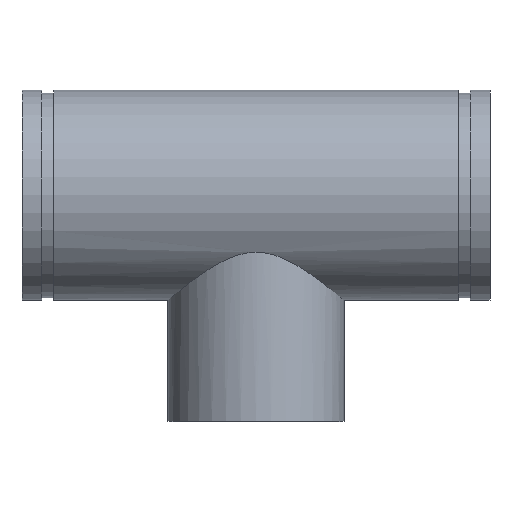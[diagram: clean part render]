
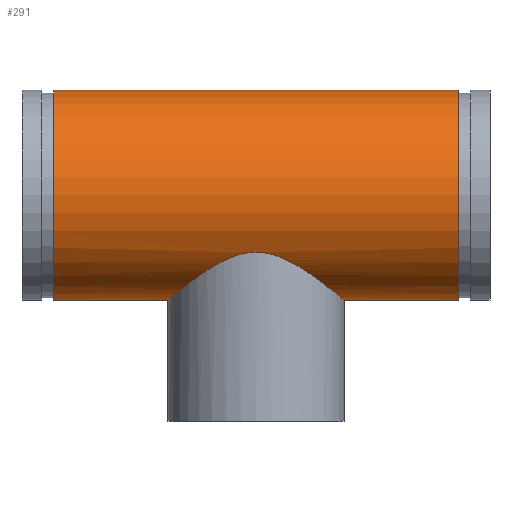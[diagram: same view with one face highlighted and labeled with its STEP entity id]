
A CAD part, top view. The second image highlights one B-rep face of the part: STEP entity #291.
In plain terms, the highlighted cylindrical face has radius 84.138 mm (diameter 168.275 mm), a full revolution.
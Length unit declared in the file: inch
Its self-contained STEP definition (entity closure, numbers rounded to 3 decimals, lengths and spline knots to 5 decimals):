
#45=B_SPLINE_CURVE_WITH_KNOTS('',3,(#511,#512,#513,#514,#515,#516,#517,
#518,#519,#520,#521,#522,#523,#524,#525,#526,#527,#528,#529,#530,#531,#532,
#533,#534,#535,#536,#537,#538,#539,#540,#541,#542,#543,#544,#545,#546,#547,
#548,#549,#550,#551,#552,#553,#554,#555,#556,#557,#558,#559,#560),
 .UNSPECIFIED.,.F.,.F.,(4,2,2,2,2,2,2,2,2,2,2,2,2,2,2,2,2,2,2,2,2,2,2,2,
4),(0.,1.47627,2.95254,4.42881,5.90508,
7.31815,8.73122,10.14429,11.55736,12.97043,
14.3835,15.79657,17.20964,18.68591,20.16218,
21.63845,23.11472,24.59099,26.06726,27.54353,
29.0198,30.43287,31.84594,33.25902,34.67209),
 .UNSPECIFIED.);
#46=B_SPLINE_CURVE_WITH_KNOTS('',3,(#561,#562,#563,#564,#565,#566,#567,
#568,#569,#570,#571,#572,#573,#574,#575,#576,#577,#578),.UNSPECIFIED.,.F.,
 .F.,(4,2,2,2,2,2,2,2,4),(34.67209,36.08516,37.49823,
38.9113,40.32437,41.80064,43.27691,44.75318,
46.22945),.UNSPECIFIED.);
#51=LINE('',#508,#59);
#59=VECTOR('',#410,3.3125);
#67=CYLINDRICAL_SURFACE('',#338,3.3125);
#77=FACE_BOUND('',#108,.T.);
#88=FACE_OUTER_BOUND('',#107,.T.);
#107=EDGE_LOOP('',(#221,#222,#223,#224));
#108=EDGE_LOOP('',(#225,#226));
#121=CIRCLE('',#321,3.3125);
#132=CIRCLE('',#337,3.3125);
#141=VERTEX_POINT('',#476);
#152=VERTEX_POINT('',#505);
#153=VERTEX_POINT('',#509);
#154=VERTEX_POINT('',#510);
#165=EDGE_CURVE('',#141,#141,#121,.T.);
#178=EDGE_CURVE('',#152,#152,#132,.T.);
#179=EDGE_CURVE('',#152,#141,#51,.T.);
#180=EDGE_CURVE('',#153,#154,#45,.T.);
#181=EDGE_CURVE('',#154,#153,#46,.T.);
#221=ORIENTED_EDGE('',*,*,#178,.T.);
#222=ORIENTED_EDGE('',*,*,#179,.T.);
#223=ORIENTED_EDGE('',*,*,#165,.T.);
#224=ORIENTED_EDGE('',*,*,#179,.F.);
#225=ORIENTED_EDGE('',*,*,#180,.F.);
#226=ORIENTED_EDGE('',*,*,#181,.F.);
#291=ADVANCED_FACE('',(#88,#77),#67,.T.);
#321=AXIS2_PLACEMENT_3D('',#477,#372,#373);
#337=AXIS2_PLACEMENT_3D('',#506,#406,#407);
#338=AXIS2_PLACEMENT_3D('',#507,#408,#409);
#372=DIRECTION('center_axis',(-1.,0.,0.));
#373=DIRECTION('ref_axis',(0.,-1.,0.));
#406=DIRECTION('center_axis',(1.,0.,0.));
#407=DIRECTION('ref_axis',(0.,-1.,0.));
#408=DIRECTION('center_axis',(-1.,0.,0.));
#409=DIRECTION('ref_axis',(0.,-1.,0.));
#410=DIRECTION('',(1.,0.,0.));
#476=CARTESIAN_POINT('',(6.38,3.3125,0.));
#477=CARTESIAN_POINT('Origin',(6.38,0.,0.));
#505=CARTESIAN_POINT('',(-6.38,3.3125,0.));
#506=CARTESIAN_POINT('Origin',(-6.38,0.,0.));
#507=CARTESIAN_POINT('Origin',(7.38,0.,0.));
#508=CARTESIAN_POINT('',(7.38,3.3125,0.));
#509=CARTESIAN_POINT('',(0.,-1.79886,-2.7815));
#510=CARTESIAN_POINT('',(-2.7815,-3.3125,0.));
#511=CARTESIAN_POINT('Ctrl Pts',(0.,-1.79886,
-2.7815));
#512=CARTESIAN_POINT('Ctrl Pts',(0.19374,-1.79886,-2.7815));
#513=CARTESIAN_POINT('Ctrl Pts',(0.383,-1.83094,-2.76129));
#514=CARTESIAN_POINT('Ctrl Pts',(0.7476,-1.94025,-2.68561));
#515=CARTESIAN_POINT('Ctrl Pts',(0.92312,-2.01685,-2.63011));
#516=CARTESIAN_POINT('Ctrl Pts',(1.25694,-2.18985,-2.48792));
#517=CARTESIAN_POINT('Ctrl Pts',(1.41532,-2.2862,-2.40109));
#518=CARTESIAN_POINT('Ctrl Pts',(1.70956,-2.47915,-2.20131));
#519=CARTESIAN_POINT('Ctrl Pts',(1.84536,-2.57576,-2.08827));
#520=CARTESIAN_POINT('Ctrl Pts',(2.08307,-2.75117,-1.85056));
#521=CARTESIAN_POINT('Ctrl Pts',(2.19469,-2.83703,-1.71803));
#522=CARTESIAN_POINT('Ctrl Pts',(2.39537,-2.99497,-1.42496));
#523=CARTESIAN_POINT('Ctrl Pts',(2.48443,-3.06701,-1.26439));
#524=CARTESIAN_POINT('Ctrl Pts',(2.63017,-3.18621,-0.92373));
#525=CARTESIAN_POINT('Ctrl Pts',(2.68698,-3.23347,-0.74323));
#526=CARTESIAN_POINT('Ctrl Pts',(2.76266,-3.29663,-0.37409));
#527=CARTESIAN_POINT('Ctrl Pts',(2.7815,-3.3125,-0.18544));
#528=CARTESIAN_POINT('Ctrl Pts',(2.7815,-3.3125,0.18544));
#529=CARTESIAN_POINT('Ctrl Pts',(2.76266,-3.29663,0.37409));
#530=CARTESIAN_POINT('Ctrl Pts',(2.68698,-3.23347,0.74323));
#531=CARTESIAN_POINT('Ctrl Pts',(2.63017,-3.18621,0.92373));
#532=CARTESIAN_POINT('Ctrl Pts',(2.48443,-3.06701,1.26439));
#533=CARTESIAN_POINT('Ctrl Pts',(2.39537,-2.99497,1.42496));
#534=CARTESIAN_POINT('Ctrl Pts',(2.19469,-2.83703,1.71803));
#535=CARTESIAN_POINT('Ctrl Pts',(2.08307,-2.75117,1.85056));
#536=CARTESIAN_POINT('Ctrl Pts',(1.84536,-2.57576,2.08827));
#537=CARTESIAN_POINT('Ctrl Pts',(1.70956,-2.47915,2.20131));
#538=CARTESIAN_POINT('Ctrl Pts',(1.41532,-2.2862,2.40109));
#539=CARTESIAN_POINT('Ctrl Pts',(1.25694,-2.18985,2.48792));
#540=CARTESIAN_POINT('Ctrl Pts',(0.92312,-2.01685,2.63011));
#541=CARTESIAN_POINT('Ctrl Pts',(0.7476,-1.94025,2.68561));
#542=CARTESIAN_POINT('Ctrl Pts',(0.383,-1.83094,2.76129));
#543=CARTESIAN_POINT('Ctrl Pts',(0.19374,-1.79886,2.7815));
#544=CARTESIAN_POINT('Ctrl Pts',(-0.19374,-1.79886,2.7815));
#545=CARTESIAN_POINT('Ctrl Pts',(-0.383,-1.83094,2.76129));
#546=CARTESIAN_POINT('Ctrl Pts',(-0.7476,-1.94025,2.68561));
#547=CARTESIAN_POINT('Ctrl Pts',(-0.92312,-2.01685,2.63011));
#548=CARTESIAN_POINT('Ctrl Pts',(-1.25694,-2.18985,2.48792));
#549=CARTESIAN_POINT('Ctrl Pts',(-1.41532,-2.2862,2.40109));
#550=CARTESIAN_POINT('Ctrl Pts',(-1.70956,-2.47915,2.20131));
#551=CARTESIAN_POINT('Ctrl Pts',(-1.84536,-2.57576,2.08827));
#552=CARTESIAN_POINT('Ctrl Pts',(-2.08307,-2.75117,1.85056));
#553=CARTESIAN_POINT('Ctrl Pts',(-2.19469,-2.83703,1.71803));
#554=CARTESIAN_POINT('Ctrl Pts',(-2.39537,-2.99497,1.42496));
#555=CARTESIAN_POINT('Ctrl Pts',(-2.48443,-3.06701,1.26439));
#556=CARTESIAN_POINT('Ctrl Pts',(-2.63017,-3.18621,0.92373));
#557=CARTESIAN_POINT('Ctrl Pts',(-2.68698,-3.23347,0.74323));
#558=CARTESIAN_POINT('Ctrl Pts',(-2.76266,-3.29663,0.37409));
#559=CARTESIAN_POINT('Ctrl Pts',(-2.7815,-3.3125,0.18544));
#560=CARTESIAN_POINT('Ctrl Pts',(-2.7815,-3.3125,0.));
#561=CARTESIAN_POINT('Ctrl Pts',(-2.7815,-3.3125,0.));
#562=CARTESIAN_POINT('Ctrl Pts',(-2.7815,-3.3125,-0.18544));
#563=CARTESIAN_POINT('Ctrl Pts',(-2.76266,-3.29663,-0.37409));
#564=CARTESIAN_POINT('Ctrl Pts',(-2.68698,-3.23347,-0.74323));
#565=CARTESIAN_POINT('Ctrl Pts',(-2.63017,-3.18621,-0.92373));
#566=CARTESIAN_POINT('Ctrl Pts',(-2.48443,-3.06701,-1.26439));
#567=CARTESIAN_POINT('Ctrl Pts',(-2.39537,-2.99497,-1.42496));
#568=CARTESIAN_POINT('Ctrl Pts',(-2.19469,-2.83703,-1.71803));
#569=CARTESIAN_POINT('Ctrl Pts',(-2.08307,-2.75117,-1.85056));
#570=CARTESIAN_POINT('Ctrl Pts',(-1.84536,-2.57576,-2.08827));
#571=CARTESIAN_POINT('Ctrl Pts',(-1.70956,-2.47915,-2.20131));
#572=CARTESIAN_POINT('Ctrl Pts',(-1.41532,-2.2862,-2.40109));
#573=CARTESIAN_POINT('Ctrl Pts',(-1.25694,-2.18985,-2.48792));
#574=CARTESIAN_POINT('Ctrl Pts',(-0.92312,-2.01685,-2.63011));
#575=CARTESIAN_POINT('Ctrl Pts',(-0.7476,-1.94025,-2.68561));
#576=CARTESIAN_POINT('Ctrl Pts',(-0.383,-1.83094,-2.76129));
#577=CARTESIAN_POINT('Ctrl Pts',(-0.19374,-1.79886,-2.7815));
#578=CARTESIAN_POINT('Ctrl Pts',(0.,-1.79886,
-2.7815));
